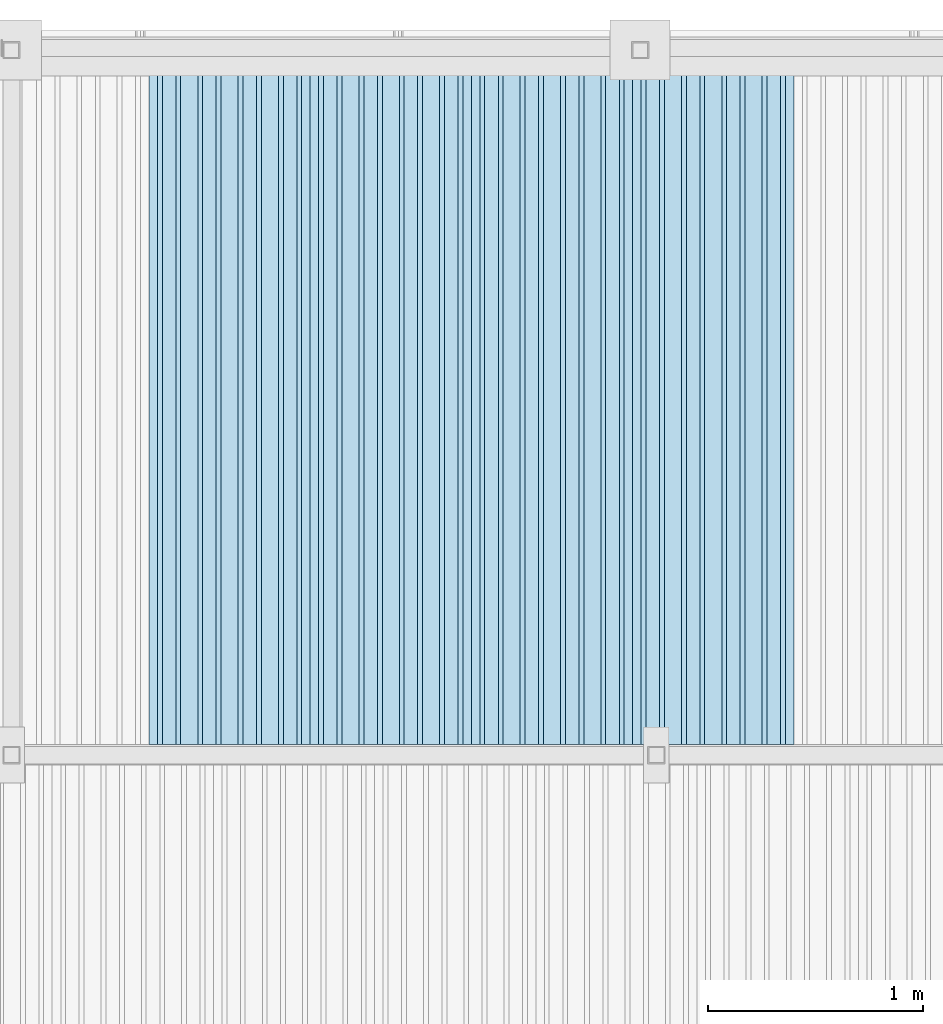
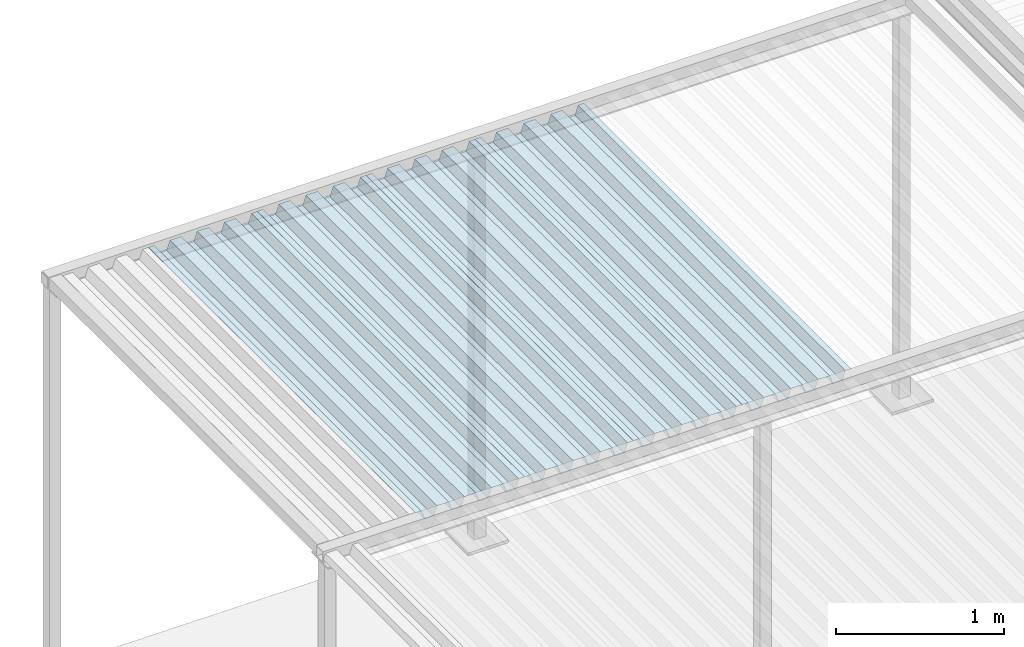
# One storey, part 81 of 98: 4 slabs.
"""IFC2X3 building model written with IfcOpenShell, lengths in millimetres."""

from ifc_helpers import new_model, entity, si_unit, converted_unit, derived_unit, direction, frame, origin_with_axes, place, context, subcontext, project, spatial, faceted_brep, material, type_object, element, save


model = new_model("IFC2X3")

# Units and contexts
model_context = context("Model", 3, precision=0.01, world=frame((0.0, 4.29681676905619e-09, 0.0)), true_north=direction((4.01073788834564e-13, 1.0)))
plan_context = context("Plan", 3, precision=0.01, world=frame((0.0, 4.29681676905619e-09, 0.0)), true_north=direction((4.01073788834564e-13, 1.0)))
body_context = subcontext(model_context, "Body", "Model", "MODEL_VIEW")
ifc_project = project(units=[converted_unit("PLANEANGLEUNIT", "DEGREE", entity("IfcPositiveLengthMeasure", 0.0174532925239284), si_unit("PLANEANGLEUNIT", "RADIAN"), dimensions=[0, 0, 0, 0, 0, 0, 0]), si_unit("AREAUNIT", "SQUARE_METRE"), si_unit("LENGTHUNIT", "METRE", prefix="MILLI"), si_unit("MASSUNIT", "GRAM", prefix="KILO"), si_unit("POWERUNIT", "WATT"), si_unit("PRESSUREUNIT", "PASCAL"), si_unit("FORCEUNIT", "NEWTON", prefix="KILO"), si_unit("ELECTRICCURRENTUNIT", "AMPERE"), si_unit("THERMODYNAMICTEMPERATUREUNIT", "DEGREE_CELSIUS"), si_unit("TIMEUNIT", "SECOND"), si_unit("VOLUMEUNIT", "CUBIC_METRE"), derived_unit("LINEARVELOCITYUNIT", [(si_unit("LENGTHUNIT", "METRE"), 1), (si_unit("TIMEUNIT", "SECOND"), -1)]), derived_unit("VOLUMETRICFLOWRATEUNIT", [(si_unit("VOLUMEUNIT", "CUBIC_METRE"), 1), (si_unit("TIMEUNIT", "SECOND"), -1)]), derived_unit("THERMALTRANSMITTANCEUNIT", [(si_unit("POWERUNIT", "WATT"), 1), (si_unit("THERMODYNAMICTEMPERATUREUNIT", "KELVIN"), -1), (si_unit("AREAUNIT", "SQUARE_METRE"), -1)])], contexts=[model_context, plan_context])

# Site, building, storey
site_placement = place(None, frame((0.0, -4.29681676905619e-09, 0.0), z_axis=(0.0, 0.0, 1.0), x_axis=(1.0, 0.0, 0.0)))
site = spatial("IfcSite", under=ifc_project, at=site_placement, Name="Gardermoen", CompositionType="ELEMENT")
building_placement = place(site_placement, frame((0.0, 4.29681676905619e-09, 0.0), z_axis=(0.0, 0.0, 1.0), x_axis=(1.0, 0.0, 0.0)))
building = spatial("IfcBuilding", under=site, at=building_placement, Name="TS", CompositionType="ELEMENT")
storey_placement = place(building_placement, origin_with_axes())
storey = spatial("IfcBuildingStorey", under=building, at=storey_placement, Name="D", CompositionType="ELEMENT", Elevation=0.0)

# Slabs
ifc_material = material(Name="STEEL/S355")
slab_type = type_object("IfcSlabType", Name="PLANJA70", PredefinedType="NOTDEFINED")
slab_1_placement = place(storey_placement, frame((515015.0, 417549.960071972, 206834.149718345), z_axis=(0.0, 0.0, 1.0), x_axis=(0.0, 1.0, 0.0)))
element("IfcSlab", 1, at=slab_1_placement, inside=storey, type_object=slab_type, material=ifc_material, Name="STÅLTAK", ObjectType="PLANJA70", PredefinedType="FLOOR", context=body_context, shape_type="Brep", body=[
    faceted_brep([(0.0, 375.0, 34.1500015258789), (0.0, 335.299987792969, 34.1500015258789), (3189.99519654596, 335.299987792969, 34.1500015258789), (3189.99519654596, 375.0, 34.1500015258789), (0.0, 313.010681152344, -32.1500015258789), (3189.99519654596, 313.010681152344, -32.1500015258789), (0.0, 249.489303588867, -32.1500015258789), (3189.99519654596, 249.489303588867, -32.1500015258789), (0.0, 227.199996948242, 34.1500015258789), (3189.99519654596, 227.199996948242, 34.1500015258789), (0.0, 147.800003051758, 34.1500015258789), (3189.99519654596, 147.800003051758, 34.1500015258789), (0.0, 125.280120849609, -33.1500015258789), (3189.99519654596, 125.280120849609, -33.1500015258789), (0.0, 62.2198791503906, -33.1500015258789), (3189.99519654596, 62.2198791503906, -33.1500015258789), (0.0, 39.7000007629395, 34.1500015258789), (3189.99519654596, 39.7000007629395, 34.1500015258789), (0.0, -39.7000007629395, 34.1500015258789), (3189.99519654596, -39.7000007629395, 34.1500015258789), (0.0, -62.2198791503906, -33.1500015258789), (3189.99519654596, -62.2198791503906, -33.1500015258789), (0.0, -125.280120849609, -33.1500015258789), (3189.99519654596, -125.280120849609, -33.1500015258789), (0.0, -147.800003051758, 34.1500015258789), (3189.99519654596, -147.800003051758, 34.1500015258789), (0.0, -227.199996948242, 34.1500015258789), (3189.99519654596, -227.199996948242, 34.1500015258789), (0.0, -249.719879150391, -33.1500015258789), (3189.99519654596, -249.719879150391, -33.1500015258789), (0.0, -312.781188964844, -33.1500015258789), (3189.99519654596, -312.781188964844, -33.1500015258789), (0.0, -335.070495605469, 33.1500015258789), (3189.99519654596, -335.070495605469, 33.1500015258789), (0.0, -375.0, 33.1500015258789), (3189.99519654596, -375.0, 33.1500015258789), (0.0, -375.0, 32.1500015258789), (3189.99519654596, -375.0, 32.1500015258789), (0.0, -335.789306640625, 32.1500015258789), (3189.99519654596, -335.789306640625, 32.1500015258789), (0.0, -313.5, -34.1500015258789), (3189.99519654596, -313.5, -34.1500015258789), (0.0, -249.0, -34.1500015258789), (3189.99519654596, -249.0, -34.1500015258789), (0.0, -226.480117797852, 33.1500015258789), (3189.99519654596, -226.480117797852, 33.1500015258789), (0.0, -148.519882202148, 33.1500015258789), (3189.99519654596, -148.519882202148, 33.1500015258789), (0.0, -126.0, -34.1500015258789), (3189.99519654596, -126.0, -34.1500015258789), (0.0, -61.5, -34.1500015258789), (3189.99519654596, -61.5, -34.1500015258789), (0.0, -38.9801177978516, 33.1500015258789), (3189.99519654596, -38.9801177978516, 33.1500015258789), (0.0, 38.9801177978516, 33.1500015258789), (3189.99519654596, 38.9801177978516, 33.1500015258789), (0.0, 61.5, -34.1500015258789), (3189.99519654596, 61.5, -34.1500015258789), (0.0, 126.0, -34.1500015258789), (3189.99519654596, 126.0, -34.1500015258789), (0.0, 148.519882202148, 33.1500015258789), (3189.99519654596, 148.519882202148, 33.1500015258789), (0.0, 226.481185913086, 33.1500015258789), (3189.99519654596, 226.481185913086, 33.1500015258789), (0.0, 248.770492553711, -33.1500015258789), (3189.99519654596, 248.770492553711, -33.1500015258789), (0.0, 313.7294921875, -33.1500015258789), (3189.99519654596, 313.7294921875, -33.1500015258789), (0.0, 336.018798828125, 33.1500015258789), (3189.99519654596, 336.018798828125, 33.1500015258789), (0.0, 375.0, 33.1500015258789), (3189.99519654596, 375.0, 33.1500015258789)], [[[0, 1, 2, 3]], [[1, 4, 5, 2]], [[4, 6, 7, 5]], [[6, 8, 9, 7]], [[8, 10, 11, 9]], [[10, 12, 13, 11]], [[12, 14, 15, 13]], [[14, 16, 17, 15]], [[16, 18, 19, 17]], [[18, 20, 21, 19]], [[20, 22, 23, 21]], [[22, 24, 25, 23]], [[24, 26, 27, 25]], [[26, 28, 29, 27]], [[28, 30, 31, 29]], [[30, 32, 33, 31]], [[32, 34, 35, 33]], [[34, 36, 37, 35]], [[36, 38, 39, 37]], [[38, 40, 41, 39]], [[40, 42, 43, 41]], [[42, 44, 45, 43]], [[44, 46, 47, 45]], [[46, 48, 49, 47]], [[48, 50, 51, 49]], [[50, 52, 53, 51]], [[52, 54, 55, 53]], [[54, 56, 57, 55]], [[56, 58, 59, 57]], [[58, 60, 61, 59]], [[60, 62, 63, 61]], [[62, 64, 65, 63]], [[64, 66, 67, 65]], [[66, 68, 69, 67]], [[68, 70, 71, 69]], [[70, 0, 3, 71]], [[5, 7, 9, 11, 13, 15, 17, 19, 21, 23, 25, 27, 29, 31, 33, 35, 37, 39, 41, 43, 45, 47, 49, 51, 53, 55, 57, 59, 61, 63, 65, 67, 69, 71, 3, 2]], [[70, 68, 66, 64, 62, 60, 58, 56, 54, 52, 50, 48, 46, 44, 42, 40, 38, 36, 34, 32, 30, 28, 26, 24, 22, 20, 18, 16, 14, 12, 10, 8, 6, 4, 1, 0]]]),
])
slab_2_placement = place(storey_placement, frame((515765.0, 417549.960071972, 206834.149718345), z_axis=(0.0, 0.0, 1.0), x_axis=(0.0, 1.0, 0.0)))
element("IfcSlab", 2, at=slab_2_placement, inside=storey, type_object=slab_type, material=ifc_material, Name="STÅLTAK", ObjectType="PLANJA70", PredefinedType="FLOOR", context=body_context, shape_type="Brep", body=[
    faceted_brep([(0.0, 375.0, 34.1500015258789), (0.0, 335.299987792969, 34.1500015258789), (3189.99519654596, 335.299987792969, 34.1500015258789), (3189.99519654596, 375.0, 34.1500015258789), (0.0, 313.010681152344, -32.1500015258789), (3189.99519654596, 313.010681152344, -32.1500015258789), (0.0, 249.489303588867, -32.1500015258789), (3189.99519654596, 249.489303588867, -32.1500015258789), (0.0, 227.199996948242, 34.1500015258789), (3189.99519654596, 227.199996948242, 34.1500015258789), (0.0, 147.800003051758, 34.1500015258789), (3189.99519654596, 147.800003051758, 34.1500015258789), (0.0, 125.280120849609, -33.1500015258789), (3189.99519654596, 125.280120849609, -33.1500015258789), (0.0, 62.2198791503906, -33.1500015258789), (3189.99519654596, 62.2198791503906, -33.1500015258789), (0.0, 39.7000007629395, 34.1500015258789), (3189.99519654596, 39.7000007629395, 34.1500015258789), (0.0, -39.7000007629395, 34.1500015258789), (3189.99519654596, -39.7000007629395, 34.1500015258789), (0.0, -62.2198791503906, -33.1500015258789), (3189.99519654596, -62.2198791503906, -33.1500015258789), (0.0, -125.280120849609, -33.1500015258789), (3189.99519654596, -125.280120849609, -33.1500015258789), (0.0, -147.800003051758, 34.1500015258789), (3189.99519654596, -147.800003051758, 34.1500015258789), (0.0, -227.199996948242, 34.1500015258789), (3189.99519654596, -227.199996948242, 34.1500015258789), (0.0, -249.719879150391, -33.1500015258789), (3189.99519654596, -249.719879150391, -33.1500015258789), (0.0, -312.781188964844, -33.1500015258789), (3189.99519654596, -312.781188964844, -33.1500015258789), (0.0, -335.070495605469, 33.1500015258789), (3189.99519654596, -335.070495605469, 33.1500015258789), (0.0, -375.0, 33.1500015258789), (3189.99519654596, -375.0, 33.1500015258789), (0.0, -375.0, 32.1500015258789), (3189.99519654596, -375.0, 32.1500015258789), (0.0, -335.789306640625, 32.1500015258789), (3189.99519654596, -335.789306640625, 32.1500015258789), (0.0, -313.5, -34.1500015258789), (3189.99519654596, -313.5, -34.1500015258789), (0.0, -249.0, -34.1500015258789), (3189.99519654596, -249.0, -34.1500015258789), (0.0, -226.480117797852, 33.1500015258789), (3189.99519654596, -226.480117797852, 33.1500015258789), (0.0, -148.519882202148, 33.1500015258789), (3189.99519654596, -148.519882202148, 33.1500015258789), (0.0, -126.0, -34.1500015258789), (3189.99519654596, -126.0, -34.1500015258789), (0.0, -61.5, -34.1500015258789), (3189.99519654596, -61.5, -34.1500015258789), (0.0, -38.9801177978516, 33.1500015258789), (3189.99519654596, -38.9801177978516, 33.1500015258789), (0.0, 38.9801177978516, 33.1500015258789), (3189.99519654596, 38.9801177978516, 33.1500015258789), (0.0, 61.5, -34.1500015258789), (3189.99519654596, 61.5, -34.1500015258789), (0.0, 126.0, -34.1500015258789), (3189.99519654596, 126.0, -34.1500015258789), (0.0, 148.519882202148, 33.1500015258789), (3189.99519654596, 148.519882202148, 33.1500015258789), (0.0, 226.481185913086, 33.1500015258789), (3189.99519654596, 226.481185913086, 33.1500015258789), (0.0, 248.770492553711, -33.1500015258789), (3189.99519654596, 248.770492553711, -33.1500015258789), (0.0, 313.7294921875, -33.1500015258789), (3189.99519654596, 313.7294921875, -33.1500015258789), (0.0, 336.018798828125, 33.1500015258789), (3189.99519654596, 336.018798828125, 33.1500015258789), (0.0, 375.0, 33.1500015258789), (3189.99519654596, 375.0, 33.1500015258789)], [[[0, 1, 2, 3]], [[1, 4, 5, 2]], [[4, 6, 7, 5]], [[6, 8, 9, 7]], [[8, 10, 11, 9]], [[10, 12, 13, 11]], [[12, 14, 15, 13]], [[14, 16, 17, 15]], [[16, 18, 19, 17]], [[18, 20, 21, 19]], [[20, 22, 23, 21]], [[22, 24, 25, 23]], [[24, 26, 27, 25]], [[26, 28, 29, 27]], [[28, 30, 31, 29]], [[30, 32, 33, 31]], [[32, 34, 35, 33]], [[34, 36, 37, 35]], [[36, 38, 39, 37]], [[38, 40, 41, 39]], [[40, 42, 43, 41]], [[42, 44, 45, 43]], [[44, 46, 47, 45]], [[46, 48, 49, 47]], [[48, 50, 51, 49]], [[50, 52, 53, 51]], [[52, 54, 55, 53]], [[54, 56, 57, 55]], [[56, 58, 59, 57]], [[58, 60, 61, 59]], [[60, 62, 63, 61]], [[62, 64, 65, 63]], [[64, 66, 67, 65]], [[66, 68, 69, 67]], [[68, 70, 71, 69]], [[70, 0, 3, 71]], [[5, 7, 9, 11, 13, 15, 17, 19, 21, 23, 25, 27, 29, 31, 33, 35, 37, 39, 41, 43, 45, 47, 49, 51, 53, 55, 57, 59, 61, 63, 65, 67, 69, 71, 3, 2]], [[70, 68, 66, 64, 62, 60, 58, 56, 54, 52, 50, 48, 46, 44, 42, 40, 38, 36, 34, 32, 30, 28, 26, 24, 22, 20, 18, 16, 14, 12, 10, 8, 6, 4, 1, 0]]]),
])
slab_3_placement = place(storey_placement, frame((516515.0, 417549.960071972, 206834.149718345), z_axis=(0.0, 0.0, 1.0), x_axis=(0.0, 1.0, 0.0)))
element("IfcSlab", 3, at=slab_3_placement, inside=storey, type_object=slab_type, material=ifc_material, Name="STÅLTAK", ObjectType="PLANJA70", PredefinedType="FLOOR", context=body_context, shape_type="Brep", body=[
    faceted_brep([(0.0, 375.0, 34.1500015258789), (0.0, 335.299987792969, 34.1500015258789), (3189.99519654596, 335.299987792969, 34.1500015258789), (3189.99519654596, 375.0, 34.1500015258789), (0.0, 313.010681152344, -32.1500015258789), (3189.99519654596, 313.010681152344, -32.1500015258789), (0.0, 249.489303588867, -32.1500015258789), (3189.99519654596, 249.489303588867, -32.1500015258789), (0.0, 227.199996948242, 34.1500015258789), (3189.99519654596, 227.199996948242, 34.1500015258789), (0.0, 147.800003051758, 34.1500015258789), (3189.99519654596, 147.800003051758, 34.1500015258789), (0.0, 125.280120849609, -33.1500015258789), (3189.99519654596, 125.280120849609, -33.1500015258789), (0.0, 62.2198791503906, -33.1500015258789), (3189.99519654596, 62.2198791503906, -33.1500015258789), (0.0, 39.7000007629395, 34.1500015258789), (3189.99519654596, 39.7000007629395, 34.1500015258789), (0.0, -39.7000007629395, 34.1500015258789), (3189.99519654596, -39.7000007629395, 34.1500015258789), (0.0, -62.2198791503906, -33.1500015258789), (3189.99519654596, -62.2198791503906, -33.1500015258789), (0.0, -125.280120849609, -33.1500015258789), (3189.99519654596, -125.280120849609, -33.1500015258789), (0.0, -147.800003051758, 34.1500015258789), (3189.99519654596, -147.800003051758, 34.1500015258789), (0.0, -227.199996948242, 34.1500015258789), (3189.99519654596, -227.199996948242, 34.1500015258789), (0.0, -249.719879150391, -33.1500015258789), (3189.99519654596, -249.719879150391, -33.1500015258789), (0.0, -312.781188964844, -33.1500015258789), (3189.99519654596, -312.781188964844, -33.1500015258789), (0.0, -335.070495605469, 33.1500015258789), (3189.99519654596, -335.070495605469, 33.1500015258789), (0.0, -375.0, 33.1500015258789), (3189.99519654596, -375.0, 33.1500015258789), (0.0, -375.0, 32.1500015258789), (3189.99519654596, -375.0, 32.1500015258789), (0.0, -335.789306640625, 32.1500015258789), (3189.99519654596, -335.789306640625, 32.1500015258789), (0.0, -313.5, -34.1500015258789), (3189.99519654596, -313.5, -34.1500015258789), (0.0, -249.0, -34.1500015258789), (3189.99519654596, -249.0, -34.1500015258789), (0.0, -226.480117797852, 33.1500015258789), (3189.99519654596, -226.480117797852, 33.1500015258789), (0.0, -148.519882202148, 33.1500015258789), (3189.99519654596, -148.519882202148, 33.1500015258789), (0.0, -126.0, -34.1500015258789), (3189.99519654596, -126.0, -34.1500015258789), (0.0, -61.5, -34.1500015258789), (3189.99519654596, -61.5, -34.1500015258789), (0.0, -38.9801177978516, 33.1500015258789), (3189.99519654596, -38.9801177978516, 33.1500015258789), (0.0, 38.9801177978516, 33.1500015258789), (3189.99519654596, 38.9801177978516, 33.1500015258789), (0.0, 61.5, -34.1500015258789), (3189.99519654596, 61.5, -34.1500015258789), (0.0, 126.0, -34.1500015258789), (3189.99519654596, 126.0, -34.1500015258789), (0.0, 148.519882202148, 33.1500015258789), (3189.99519654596, 148.519882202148, 33.1500015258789), (0.0, 226.481185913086, 33.1500015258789), (3189.99519654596, 226.481185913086, 33.1500015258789), (0.0, 248.770492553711, -33.1500015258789), (3189.99519654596, 248.770492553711, -33.1500015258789), (0.0, 313.7294921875, -33.1500015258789), (3189.99519654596, 313.7294921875, -33.1500015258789), (0.0, 336.018798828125, 33.1500015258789), (3189.99519654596, 336.018798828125, 33.1500015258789), (0.0, 375.0, 33.1500015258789), (3189.99519654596, 375.0, 33.1500015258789)], [[[0, 1, 2, 3]], [[1, 4, 5, 2]], [[4, 6, 7, 5]], [[6, 8, 9, 7]], [[8, 10, 11, 9]], [[10, 12, 13, 11]], [[12, 14, 15, 13]], [[14, 16, 17, 15]], [[16, 18, 19, 17]], [[18, 20, 21, 19]], [[20, 22, 23, 21]], [[22, 24, 25, 23]], [[24, 26, 27, 25]], [[26, 28, 29, 27]], [[28, 30, 31, 29]], [[30, 32, 33, 31]], [[32, 34, 35, 33]], [[34, 36, 37, 35]], [[36, 38, 39, 37]], [[38, 40, 41, 39]], [[40, 42, 43, 41]], [[42, 44, 45, 43]], [[44, 46, 47, 45]], [[46, 48, 49, 47]], [[48, 50, 51, 49]], [[50, 52, 53, 51]], [[52, 54, 55, 53]], [[54, 56, 57, 55]], [[56, 58, 59, 57]], [[58, 60, 61, 59]], [[60, 62, 63, 61]], [[62, 64, 65, 63]], [[64, 66, 67, 65]], [[66, 68, 69, 67]], [[68, 70, 71, 69]], [[70, 0, 3, 71]], [[5, 7, 9, 11, 13, 15, 17, 19, 21, 23, 25, 27, 29, 31, 33, 35, 37, 39, 41, 43, 45, 47, 49, 51, 53, 55, 57, 59, 61, 63, 65, 67, 69, 71, 3, 2]], [[70, 68, 66, 64, 62, 60, 58, 56, 54, 52, 50, 48, 46, 44, 42, 40, 38, 36, 34, 32, 30, 28, 26, 24, 22, 20, 18, 16, 14, 12, 10, 8, 6, 4, 1, 0]]]),
])
slab_4_placement = place(storey_placement, frame((517265.0, 417549.960071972, 206834.149718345), z_axis=(0.0, 0.0, 1.0), x_axis=(0.0, 1.0, 0.0)))
element("IfcSlab", 4, at=slab_4_placement, inside=storey, type_object=slab_type, material=ifc_material, Name="STÅLTAK", ObjectType="PLANJA70", PredefinedType="FLOOR", context=body_context, shape_type="Brep", body=[
    faceted_brep([(0.0, 375.0, 34.1500015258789), (0.0, 335.299987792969, 34.1500015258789), (3189.99519654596, 335.299987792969, 34.1500015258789), (3189.99519654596, 375.0, 34.1500015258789), (0.0, 313.010681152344, -32.1500015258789), (3189.99519654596, 313.010681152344, -32.1500015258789), (0.0, 249.489303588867, -32.1500015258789), (3189.99519654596, 249.489303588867, -32.1500015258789), (0.0, 227.199996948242, 34.1500015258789), (3189.99519654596, 227.199996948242, 34.1500015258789), (0.0, 147.800003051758, 34.1500015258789), (3189.99519654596, 147.800003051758, 34.1500015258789), (0.0, 125.280120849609, -33.1500015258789), (3189.99519654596, 125.280120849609, -33.1500015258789), (0.0, 62.2198791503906, -33.1500015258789), (3189.99519654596, 62.2198791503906, -33.1500015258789), (0.0, 39.7000007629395, 34.1500015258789), (3189.99519654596, 39.7000007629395, 34.1500015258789), (0.0, -39.7000007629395, 34.1500015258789), (3189.99519654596, -39.7000007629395, 34.1500015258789), (0.0, -62.2198791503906, -33.1500015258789), (3189.99519654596, -62.2198791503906, -33.1500015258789), (0.0, -125.280120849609, -33.1500015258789), (3189.99519654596, -125.280120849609, -33.1500015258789), (0.0, -147.800003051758, 34.1500015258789), (3189.99519654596, -147.800003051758, 34.1500015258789), (0.0, -227.199996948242, 34.1500015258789), (3189.99519654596, -227.199996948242, 34.1500015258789), (0.0, -249.719879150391, -33.1500015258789), (3189.99519654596, -249.719879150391, -33.1500015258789), (0.0, -312.781188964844, -33.1500015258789), (3189.99519654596, -312.781188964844, -33.1500015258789), (0.0, -335.070495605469, 33.1500015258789), (3189.99519654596, -335.070495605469, 33.1500015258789), (0.0, -375.0, 33.1500015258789), (3189.99519654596, -375.0, 33.1500015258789), (0.0, -375.0, 32.1500015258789), (3189.99519654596, -375.0, 32.1500015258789), (0.0, -335.789306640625, 32.1500015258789), (3189.99519654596, -335.789306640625, 32.1500015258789), (0.0, -313.5, -34.1500015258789), (3189.99519654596, -313.5, -34.1500015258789), (0.0, -249.0, -34.1500015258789), (3189.99519654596, -249.0, -34.1500015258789), (0.0, -226.480117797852, 33.1500015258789), (3189.99519654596, -226.480117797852, 33.1500015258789), (0.0, -148.519882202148, 33.1500015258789), (3189.99519654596, -148.519882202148, 33.1500015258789), (0.0, -126.0, -34.1500015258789), (3189.99519654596, -126.0, -34.1500015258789), (0.0, -61.5, -34.1500015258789), (3189.99519654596, -61.5, -34.1500015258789), (0.0, -38.9801177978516, 33.1500015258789), (3189.99519654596, -38.9801177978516, 33.1500015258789), (0.0, 38.9801177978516, 33.1500015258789), (3189.99519654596, 38.9801177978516, 33.1500015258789), (0.0, 61.5, -34.1500015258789), (3189.99519654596, 61.5, -34.1500015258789), (0.0, 126.0, -34.1500015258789), (3189.99519654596, 126.0, -34.1500015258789), (0.0, 148.519882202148, 33.1500015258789), (3189.99519654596, 148.519882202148, 33.1500015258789), (0.0, 226.481185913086, 33.1500015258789), (3189.99519654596, 226.481185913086, 33.1500015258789), (0.0, 248.770492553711, -33.1500015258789), (3189.99519654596, 248.770492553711, -33.1500015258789), (0.0, 313.7294921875, -33.1500015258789), (3189.99519654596, 313.7294921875, -33.1500015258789), (0.0, 336.018798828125, 33.1500015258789), (3189.99519654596, 336.018798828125, 33.1500015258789), (0.0, 375.0, 33.1500015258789), (3189.99519654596, 375.0, 33.1500015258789)], [[[0, 1, 2, 3]], [[1, 4, 5, 2]], [[4, 6, 7, 5]], [[6, 8, 9, 7]], [[8, 10, 11, 9]], [[10, 12, 13, 11]], [[12, 14, 15, 13]], [[14, 16, 17, 15]], [[16, 18, 19, 17]], [[18, 20, 21, 19]], [[20, 22, 23, 21]], [[22, 24, 25, 23]], [[24, 26, 27, 25]], [[26, 28, 29, 27]], [[28, 30, 31, 29]], [[30, 32, 33, 31]], [[32, 34, 35, 33]], [[34, 36, 37, 35]], [[36, 38, 39, 37]], [[38, 40, 41, 39]], [[40, 42, 43, 41]], [[42, 44, 45, 43]], [[44, 46, 47, 45]], [[46, 48, 49, 47]], [[48, 50, 51, 49]], [[50, 52, 53, 51]], [[52, 54, 55, 53]], [[54, 56, 57, 55]], [[56, 58, 59, 57]], [[58, 60, 61, 59]], [[60, 62, 63, 61]], [[62, 64, 65, 63]], [[64, 66, 67, 65]], [[66, 68, 69, 67]], [[68, 70, 71, 69]], [[70, 0, 3, 71]], [[5, 7, 9, 11, 13, 15, 17, 19, 21, 23, 25, 27, 29, 31, 33, 35, 37, 39, 41, 43, 45, 47, 49, 51, 53, 55, 57, 59, 61, 63, 65, 67, 69, 71, 3, 2]], [[70, 68, 66, 64, 62, 60, 58, 56, 54, 52, 50, 48, 46, 44, 42, 40, 38, 36, 34, 32, 30, 28, 26, 24, 22, 20, 18, 16, 14, 12, 10, 8, 6, 4, 1, 0]]]),
])

save(model, "model.ifc")
